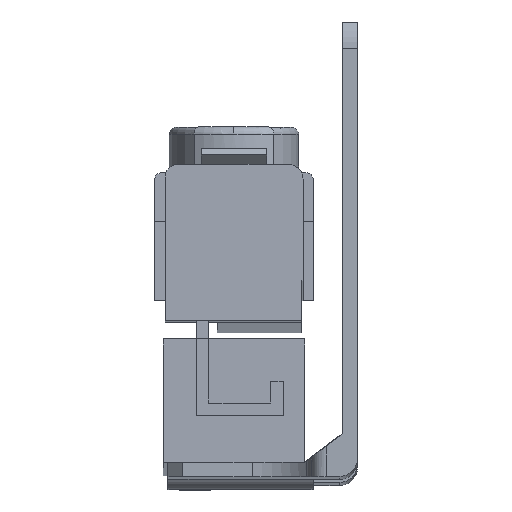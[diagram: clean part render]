
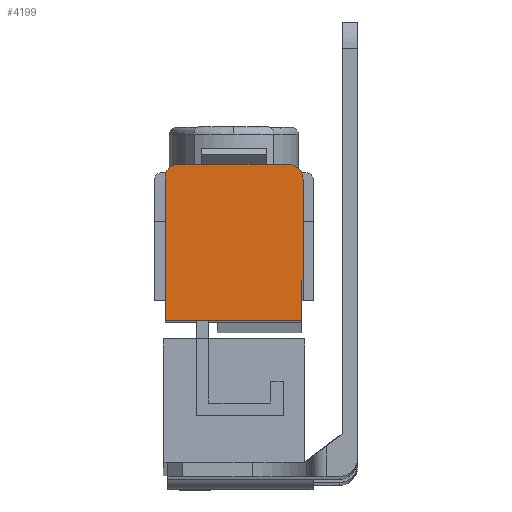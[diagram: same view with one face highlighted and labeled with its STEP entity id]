
A CAD part, front view. The second image highlights one B-rep face of the part: STEP entity #4199.
In plain terms, the highlighted planar face has unit normal (0, -1, 0.005).
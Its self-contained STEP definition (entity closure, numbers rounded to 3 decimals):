
#111 = EDGE_CURVE ( 'NONE', #2531, #3955, #1787, .T. ) ;
#112 = EDGE_CURVE ( 'NONE', #2529, #2531, #1789, .T. ) ;
#115 = EDGE_CURVE ( 'NONE', #3955, #2518, #1795, .T. ) ;
#116 = EDGE_CURVE ( 'NONE', #2513, #2529, #1797, .T. ) ;
#120 = EDGE_CURVE ( 'NONE', #2469, #2513, #1806, .T. ) ;
#123 = EDGE_CURVE ( 'NONE', #3959, #2469, #1810, .T. ) ;
#127 = EDGE_CURVE ( 'NONE', #2479, #3959, #1819, .T. ) ;
#130 = EDGE_CURVE ( 'NONE', #2518, #2479, #1823, .T. ) ;
#503 = AXIS2_PLACEMENT_3D ( 'NONE', #2849, #2850, #2851 ) ;
#504 = AXIS2_PLACEMENT_3D ( 'NONE', #2864, #2865, #2866 ) ;
#618 = EDGE_LOOP ( 'NONE', ( #820, #819, #818, #817, #816, #815, #814, #813 ) ) ;
#813 = ORIENTED_EDGE ( 'NONE', *, *, #115, .T. ) ;
#814 = ORIENTED_EDGE ( 'NONE', *, *, #111, .T. ) ;
#815 = ORIENTED_EDGE ( 'NONE', *, *, #112, .T. ) ;
#816 = ORIENTED_EDGE ( 'NONE', *, *, #116, .T. ) ;
#817 = ORIENTED_EDGE ( 'NONE', *, *, #120, .T. ) ;
#818 = ORIENTED_EDGE ( 'NONE', *, *, #123, .T. ) ;
#819 = ORIENTED_EDGE ( 'NONE', *, *, #127, .T. ) ;
#820 = ORIENTED_EDGE ( 'NONE', *, *, #130, .T. ) ;
#1787 = LINE ( 'NONE', #2831, #1788 ) ;
#1788 = VECTOR ( 'NONE', #2832, 1000. ) ;
#1789 = LINE ( 'NONE', #2833, #1790 ) ;
#1790 = VECTOR ( 'NONE', #2834, 1000. ) ;
#1795 = LINE ( 'NONE', #2839, #1796 ) ;
#1796 = VECTOR ( 'NONE', #2840, 1000. ) ;
#1797 = LINE ( 'NONE', #2841, #1798 ) ;
#1798 = VECTOR ( 'NONE', #2842, 1000. ) ;
#1806 = CIRCLE ( 'NONE', #503, 1.75 ) ;
#1810 = LINE ( 'NONE', #2856, #1811 ) ;
#1811 = VECTOR ( 'NONE', #2857, 1000. ) ;
#1819 = CIRCLE ( 'NONE', #504, 2.05 ) ;
#1823 = LINE ( 'NONE', #2871, #1824 ) ;
#1824 = VECTOR ( 'NONE', #2872, 1000. ) ;
#2469 = VERTEX_POINT ( 'NONE', #4441 ) ;
#2479 = VERTEX_POINT ( 'NONE', #4451 ) ;
#2513 = VERTEX_POINT ( 'NONE', #4485 ) ;
#2518 = VERTEX_POINT ( 'NONE', #4490 ) ;
#2529 = VERTEX_POINT ( 'NONE', #4501 ) ;
#2531 = VERTEX_POINT ( 'NONE', #4503 ) ;
#2831 = CARTESIAN_POINT ( 'NONE',  ( -7.75, -25.287, -26.159 ) ) ;
#2832 = DIRECTION ( 'NONE',  ( 0., 0.005, 1. ) ) ;
#2833 = CARTESIAN_POINT ( 'NONE',  ( -7.75, -25.287, -26.159 ) ) ;
#2834 = DIRECTION ( 'NONE',  ( 1., 0., 0. ) ) ;
#2839 = CARTESIAN_POINT ( 'NONE',  ( -26.5, -25.258, -20.659 ) ) ;
#2840 = DIRECTION ( 'NONE',  ( 1., 0., 0. ) ) ;
#2841 = CARTESIAN_POINT ( 'NONE',  ( -26.5, -25.183, -6.409 ) ) ;
#2842 = DIRECTION ( 'NONE',  ( 0., -0.005, -1. ) ) ;
#2849 = CARTESIAN_POINT ( 'NONE',  ( -24.75, -25.183, -6.409 ) ) ;
#2850 = DIRECTION ( 'NONE',  ( 0., -1., 0.005 ) ) ;
#2851 = DIRECTION ( 'NONE',  ( 0., -0.005, -1. ) ) ;
#2856 = CARTESIAN_POINT ( 'NONE',  ( -24.75, -25.174, -4.659 ) ) ;
#2857 = DIRECTION ( 'NONE',  ( -1., 0., 0. ) ) ;
#2864 = CARTESIAN_POINT ( 'NONE',  ( -9.55, -25.185, -6.709 ) ) ;
#2865 = DIRECTION ( 'NONE',  ( 0., -1., 0.005 ) ) ;
#2866 = DIRECTION ( 'NONE',  ( 0., 0.005, 1. ) ) ;
#2871 = CARTESIAN_POINT ( 'NONE',  ( -7.5, -25.185, -6.709 ) ) ;
#2872 = DIRECTION ( 'NONE',  ( 0., 0.005, 1. ) ) ;
#3713 = AXIS2_PLACEMENT_3D ( 'NONE', #5060, #5061, #5062 ) ;
#3955 = VERTEX_POINT ( 'NONE', #4662 ) ;
#3959 = VERTEX_POINT ( 'NONE', #4666 ) ;
#4199 = ADVANCED_FACE ( 'NONE', ( #5659 ), #5059, .T. ) ;
#4441 = CARTESIAN_POINT ( 'NONE',  ( -24.75, -25.174, -4.659 ) ) ;
#4451 = CARTESIAN_POINT ( 'NONE',  ( -7.5, -25.185, -6.709 ) ) ;
#4485 = CARTESIAN_POINT ( 'NONE',  ( -26.5, -25.183, -6.409 ) ) ;
#4490 = CARTESIAN_POINT ( 'NONE',  ( -7.5, -25.258, -20.659 ) ) ;
#4501 = CARTESIAN_POINT ( 'NONE',  ( -26.5, -25.287, -26.159 ) ) ;
#4503 = CARTESIAN_POINT ( 'NONE',  ( -7.75, -25.287, -26.159 ) ) ;
#4662 = CARTESIAN_POINT ( 'NONE',  ( -7.75, -25.258, -20.659 ) ) ;
#4666 = CARTESIAN_POINT ( 'NONE',  ( -9.55, -25.174, -4.659 ) ) ;
#5059 = PLANE ( 'NONE',  #3713 ) ;
#5060 = CARTESIAN_POINT ( 'NONE',  ( -24.75, -25.183, -6.409 ) ) ;
#5061 = DIRECTION ( 'NONE',  ( 0., -1., 0.005 ) ) ;
#5062 = DIRECTION ( 'NONE',  ( 0., -0.005, -1. ) ) ;
#5659 = FACE_OUTER_BOUND ( 'NONE', #618, .T. ) ;
